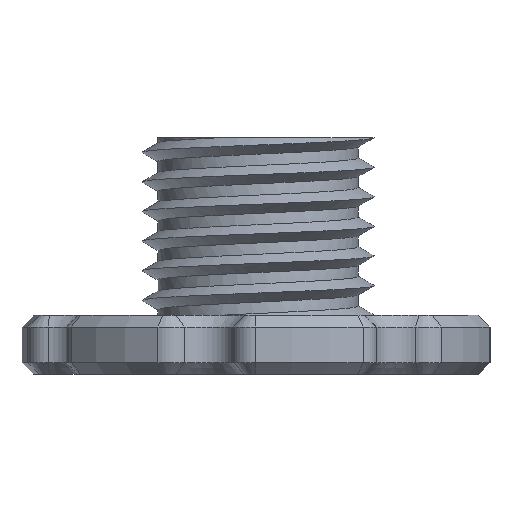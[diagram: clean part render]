
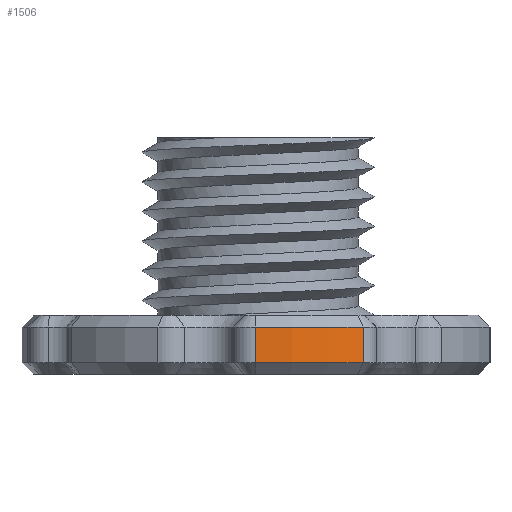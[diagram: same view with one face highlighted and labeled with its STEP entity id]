
A CAD part, left-side view. The second image highlights one B-rep face of the part: STEP entity #1506.
In plain terms, the highlighted cylindrical face has radius 20 mm (diameter 40 mm), a partial arc.
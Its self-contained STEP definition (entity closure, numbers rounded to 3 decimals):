
#166=FACE_OUTER_BOUND('',#263,.T.);
#263=EDGE_LOOP('',(#1343,#1344,#1345,#1346));
#302=CIRCLE('',#1569,20.);
#353=CIRCLE('',#1660,20.);
#456=LINE('',#2911,#546);
#462=LINE('',#2930,#552);
#546=VECTOR('',#2028,10.);
#552=VECTOR('',#2048,10.);
#627=VERTEX_POINT('',#2758);
#629=VERTEX_POINT('',#2764);
#672=VERTEX_POINT('',#2910);
#678=VERTEX_POINT('',#2928);
#780=EDGE_CURVE('',#627,#629,#302,.T.);
#851=EDGE_CURVE('',#629,#672,#456,.T.);
#861=EDGE_CURVE('',#678,#627,#462,.T.);
#877=EDGE_CURVE('',#672,#678,#353,.T.);
#1343=ORIENTED_EDGE('',*,*,#780,.F.);
#1344=ORIENTED_EDGE('',*,*,#861,.F.);
#1345=ORIENTED_EDGE('',*,*,#877,.F.);
#1346=ORIENTED_EDGE('',*,*,#851,.F.);
#1413=CYLINDRICAL_SURFACE('',#1718,20.);
#1506=ADVANCED_FACE('',(#166),#1413,.T.);
#1569=AXIS2_PLACEMENT_3D('',#2768,#1856,#1857);
#1660=AXIS2_PLACEMENT_3D('',#2962,#2084,#2085);
#1718=AXIS2_PLACEMENT_3D('',#3247,#2221,#2222);
#1856=DIRECTION('center_axis',(0.,0.,-1.));
#1857=DIRECTION('ref_axis',(-1.,0.,0.));
#2028=DIRECTION('',(0.,0.,1.));
#2048=DIRECTION('',(0.,0.,-1.));
#2084=DIRECTION('center_axis',(0.,0.,1.));
#2085=DIRECTION('ref_axis',(-1.,0.,0.));
#2221=DIRECTION('center_axis',(0.,0.,-1.));
#2222=DIRECTION('ref_axis',(-0.975,-0.223,0.));
#2758=CARTESIAN_POINT('',(64.082,68.278,-9.77));
#2764=CARTESIAN_POINT('',(62.001,77.394,-9.77));
#2768=CARTESIAN_POINT('Origin',(82.,77.163,-9.77));
#2910=CARTESIAN_POINT('',(62.001,77.394,-6.77));
#2911=CARTESIAN_POINT('',(62.001,77.394,-5.77));
#2928=CARTESIAN_POINT('',(64.082,68.278,-6.77));
#2930=CARTESIAN_POINT('',(64.082,68.278,-5.77));
#2962=CARTESIAN_POINT('Origin',(82.,77.163,-6.77));
#3247=CARTESIAN_POINT('Origin',(82.,77.163,-5.77));
